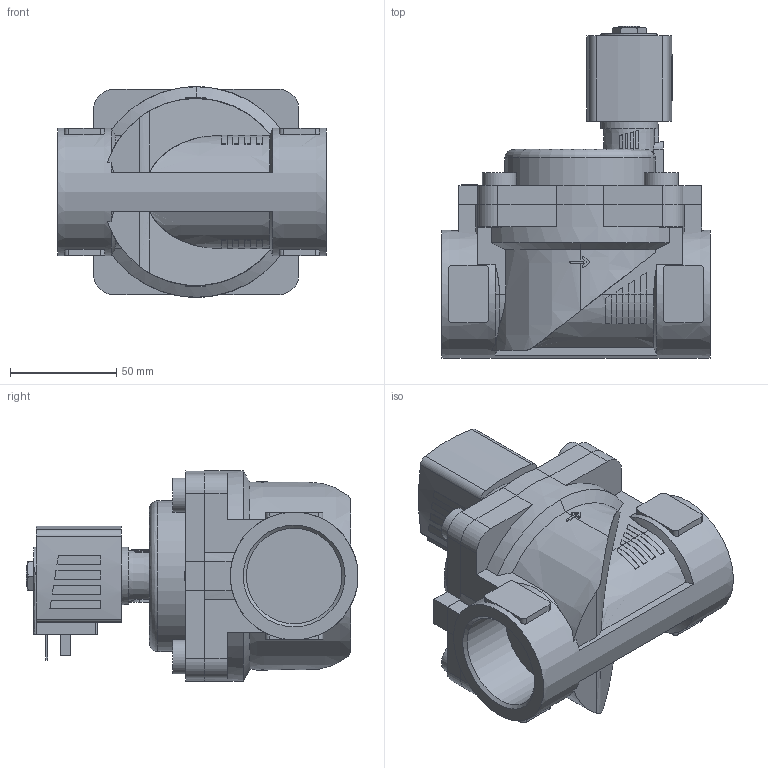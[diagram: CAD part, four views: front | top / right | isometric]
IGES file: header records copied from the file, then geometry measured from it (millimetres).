
Start section: Data from Parasolid IGES Translator 26.0.171, Copyright(c) 2006 Siemens PLM Software. All Rights Reserved.
Global section: file name: 6281-261669-2_2-Way_Solenoid_Valve__Servo-assisted__General_Purpose.igs; native system: By Siemens PLM Incorporated; preprocessor: XPlus GENERIC/IGES 26.0.171; author: Noname; organization: Noname; date: 20240904.161953; units: inch
Bounding box: 126 x 156 x 99 mm (x, y, z)
Surface area: 94621.9 mm2 (no closed solid volume)
Topology: 0 solids, 0 shells, 375 faces, 1980 edges, 1975 vertices
Faces by surface type: extrusion 244, revolution 131
